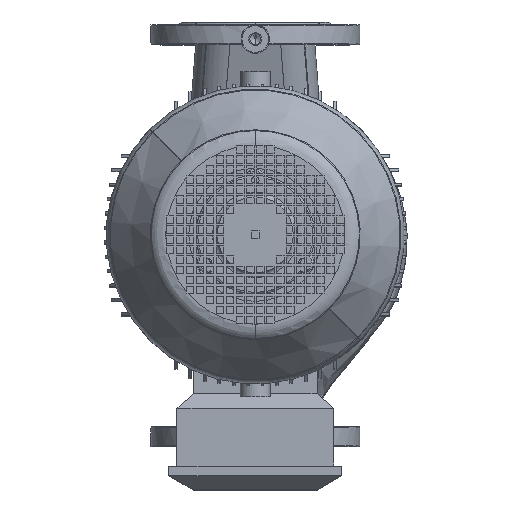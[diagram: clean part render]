
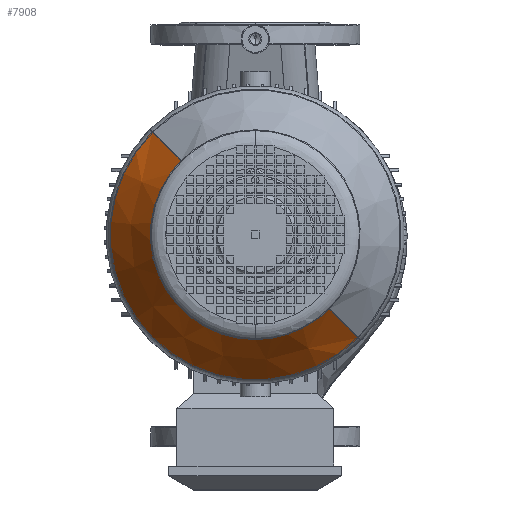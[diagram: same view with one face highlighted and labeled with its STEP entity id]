
A CAD part, top view. The second image highlights one B-rep face of the part: STEP entity #7908.
In plain terms, the highlighted conical face has half-angle 34.992 degrees and reference radius 104.5 mm.
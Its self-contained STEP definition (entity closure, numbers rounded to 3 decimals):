
#7908=ADVANCED_FACE('',(#16372),#16373,.T.);
#16372=FACE_OUTER_BOUND('',#31213,.T.);
#16373=CONICAL_SURFACE('',#31214,104.5,0.611);
#31213=EDGE_LOOP('',(#52125,#52126,#52127,#52128,#52129));
#31214=AXIS2_PLACEMENT_3D('',#52130,#52131,#52132);
#52125=ORIENTED_EDGE('',*,*,#56810,.T.);
#52126=ORIENTED_EDGE('',*,*,#60218,.F.);
#52127=ORIENTED_EDGE('',*,*,#56920,.F.);
#52128=ORIENTED_EDGE('',*,*,#56812,.T.);
#52129=ORIENTED_EDGE('',*,*,#60252,.F.);
#52130=CARTESIAN_POINT('',(0.,0.,163.0));
#52131=DIRECTION('',(-0.0,-0.0,-1.0));
#52132=DIRECTION('',(-1.0,0.,0.0));
#56810=EDGE_CURVE('',#64628,#64629,#64630,.T.);
#56812=EDGE_CURVE('',#64633,#64631,#64634,.T.);
#56920=EDGE_CURVE('',#64633,#64776,#64825,.T.);
#60218=EDGE_CURVE('',#64776,#64629,#69767,.T.);
#60252=EDGE_CURVE('',#64628,#64631,#69803,.T.);
#64628=VERTEX_POINT('',#80596);
#64629=VERTEX_POINT('',#80597);
#64630=LINE('',#80598,#80599);
#64631=VERTEX_POINT('',#80600);
#64633=VERTEX_POINT('',#80602);
#64634=LINE('',#80603,#80604);
#64776=VERTEX_POINT('',#81130);
#64825=CIRCLE('',#81279,110.472);
#69767=CIRCLE('',#88873,110.472);
#69803=CIRCLE('',#88969,153.385);
#80596=CARTESIAN_POINT('',(-153.385,0.,93.165));
#80597=CARTESIAN_POINT('',(-110.472,0.,154.469));
#80598=CARTESIAN_POINT('',(-104.5,0.,163.0));
#80599=VECTOR('',#92773,1.0);
#80600=CARTESIAN_POINT('',(153.385,0.0,93.165));
#80602=CARTESIAN_POINT('',(110.472,0.,154.469));
#80603=CARTESIAN_POINT('',(104.5,0.,163.0));
#80604=VECTOR('',#92777,1.0);
#81130=CARTESIAN_POINT('',(-78.115,78.115,154.469));
#81279=AXIS2_PLACEMENT_3D('',#92872,#92873,#92874);
#88873=AXIS2_PLACEMENT_3D('',#95319,#95320,#95321);
#88969=AXIS2_PLACEMENT_3D('',#95367,#95368,#95369);
#92773=DIRECTION('',(0.573,0.,0.819));
#92777=DIRECTION('',(0.573,0.,-0.819));
#92872=CARTESIAN_POINT('',(0.,0.,154.469));
#92873=DIRECTION('',(0.0,0.0,1.0));
#92874=DIRECTION('',(-1.0,0.,0.0));
#95319=CARTESIAN_POINT('',(0.,0.,154.469));
#95320=DIRECTION('',(0.0,0.0,1.0));
#95321=DIRECTION('',(-1.0,0.,0.0));
#95367=CARTESIAN_POINT('',(0.,0.,93.165));
#95368=DIRECTION('',(0.0,-0.0,-1.0));
#95369=DIRECTION('',(-1.0,0.,0.0));
